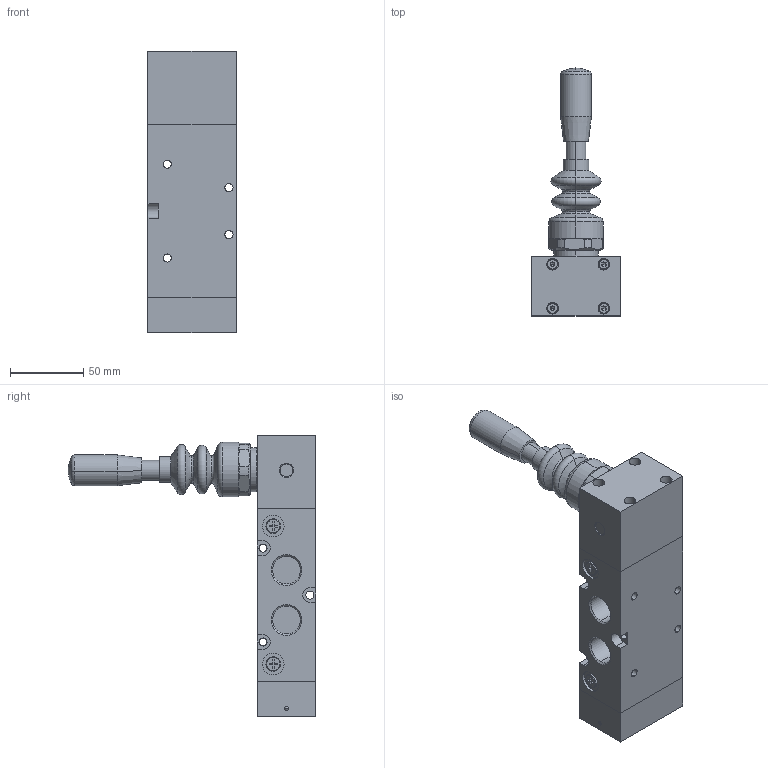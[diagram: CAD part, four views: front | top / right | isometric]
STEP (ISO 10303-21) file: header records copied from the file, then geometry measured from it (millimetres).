
FILE_DESCRIPTION (( 'STEP AP214' ), '1' );
FILE_NAME ('02_060_4.STEP', '2015-12-22T11:32:51', ( '' ), ( '' ), 'SwSTEP 2.0', 'SolidWorks 2016', '' );
FILE_SCHEMA (( 'AUTOMOTIVE_DESIGN' ));
Length unit declared in the file: millimetre
Products named in the file (1): 02_060_4
Bounding box: 60 x 168.8 x 192 mm (x, y, z)
Volume: 491399.3 mm3; surface area: 83840.8 mm2
Topology: 15 solids, 15 shells, 542 faces, 1226 edges, 744 vertices
Faces by surface type: plane 225, cylinder 153, cone 76, torus 76, sphere 12
Entity records: 19011 total; most frequent: DIRECTION 2796, CARTESIAN_POINT 2754, ORIENTED_EDGE 2380, EDGE_CURVE 1190, AXIS2_PLACEMENT_3D 1108, VERTEX_POINT 732, EDGE_LOOP 620, VECTOR 580
